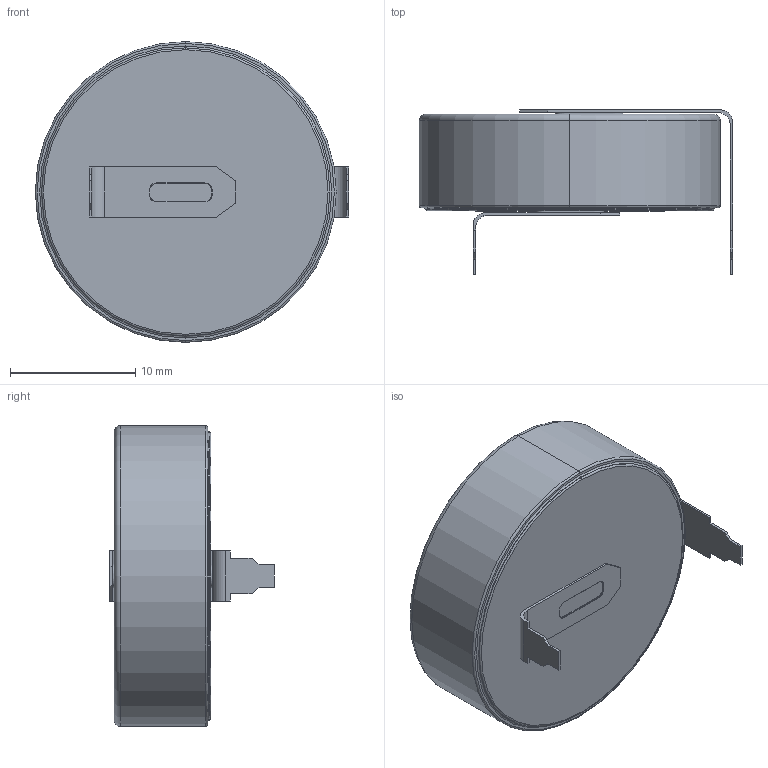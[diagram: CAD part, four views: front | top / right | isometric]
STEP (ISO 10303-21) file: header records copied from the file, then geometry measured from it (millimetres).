
FILE_DESCRIPTION (( 'STEP AP214' ), '1' );
FILE_NAME ('0A0DABCB-1B2F-4B83-B03E-9D5C02588C63.STEP', '2023-12-15T10:42:19', ( '' ), ( '' ), 'SwSTEP 2.0', 'SolidWorks 2022', '' );
FILE_SCHEMA (( 'AUTOMOTIVE_DESIGN' ));
Length unit declared in the file: millimetre
Products named in the file (1): 0A0DABCB-1B2F-4B83-B03E-9D5C02588C63
Bounding box: 25 x 13.1 x 24 mm (x, y, z)
Volume: 3505.1 mm3; surface area: 1781.5 mm2
Topology: 1 solids, 1 shells, 121 faces, 296 edges, 184 vertices
Faces by surface type: plane 57, cylinder 40, torus 24
Entity records: 3741 total; most frequent: DIRECTION 652, CARTESIAN_POINT 602, ORIENTED_EDGE 592, EDGE_CURVE 296, AXIS2_PLACEMENT_3D 234, LINE 184, VERTEX_POINT 184, VECTOR 184
